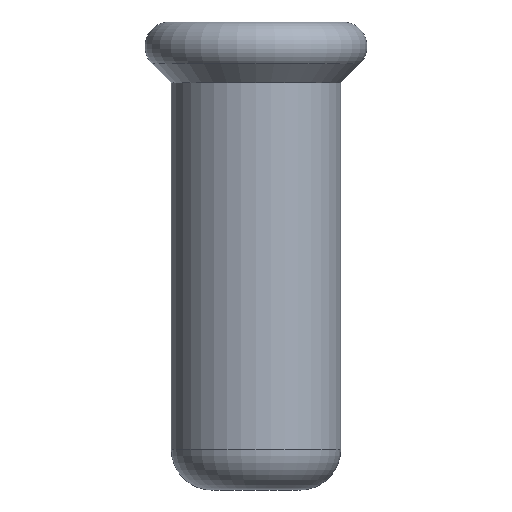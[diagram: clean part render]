
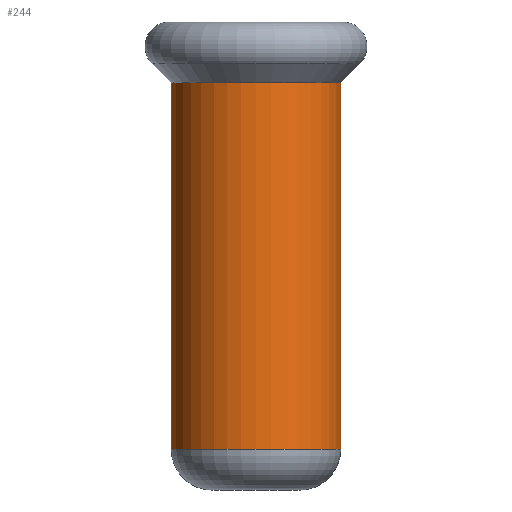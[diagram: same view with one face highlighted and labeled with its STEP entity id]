
A CAD part, left-side view. The second image highlights one B-rep face of the part: STEP entity #244.
In plain terms, the highlighted cylindrical face has radius 0.635 mm (diameter 1.27 mm), a partial arc.
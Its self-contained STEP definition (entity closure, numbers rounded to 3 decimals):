
#92=DIRECTION('',(0.,0.,1.));
#93=VECTOR('',#92,2.743);
#94=CARTESIAN_POINT('',(0.,0.635,-3.2));
#95=LINE('',#94,#93);
#96=DIRECTION('',(0.,0.,1.));
#97=VECTOR('',#96,2.743);
#98=CARTESIAN_POINT('',(0.,-0.635,-3.2));
#99=LINE('',#98,#97);
#100=CARTESIAN_POINT('',(0.,0.,-3.2));
#101=DIRECTION('',(0.,0.,1.));
#102=DIRECTION('',(0.,1.,0.));
#103=AXIS2_PLACEMENT_3D('',#100,#101,#102);
#123=CARTESIAN_POINT('',(0.,0.,-0.457));
#124=DIRECTION('',(0.,0.,1.));
#125=DIRECTION('',(0.,1.,0.));
#126=AXIS2_PLACEMENT_3D('',#123,#124,#125);
#177=CARTESIAN_POINT('',(0.,0.635,-3.2));
#179=VERTEX_POINT('',#177);
#180=CARTESIAN_POINT('',(0.,0.635,-0.457));
#181=VERTEX_POINT('',#180);
#187=CARTESIAN_POINT('',(0.,-0.635,-3.2));
#189=VERTEX_POINT('',#187);
#190=CARTESIAN_POINT('',(0.,-0.635,-0.457));
#191=VERTEX_POINT('',#190);
#230=CARTESIAN_POINT('',(0.,0.,0.175));
#231=DIRECTION('',(0.,0.,-1.));
#232=DIRECTION('',(0.,-1.,0.));
#233=AXIS2_PLACEMENT_3D('',#230,#231,#232);
#234=CYLINDRICAL_SURFACE('',#233,0.635);
#236=ORIENTED_EDGE('',*,*,#235,.T.);
#238=ORIENTED_EDGE('',*,*,#237,.T.);
#240=ORIENTED_EDGE('',*,*,#239,.F.);
#241=ORIENTED_EDGE('',*,*,#222,.F.);
#242=EDGE_LOOP('',(#236,#238,#240,#241));
#243=FACE_OUTER_BOUND('',#242,.F.);
#244=ADVANCED_FACE('',(#243),#234,.T.);
#104=CIRCLE('',#103,0.635);
#127=CIRCLE('',#126,0.635);
#222=EDGE_CURVE('',#179,#189,#104,.T.);
#235=EDGE_CURVE('',#179,#181,#95,.T.);
#237=EDGE_CURVE('',#181,#191,#127,.T.);
#239=EDGE_CURVE('',#189,#191,#99,.T.);
